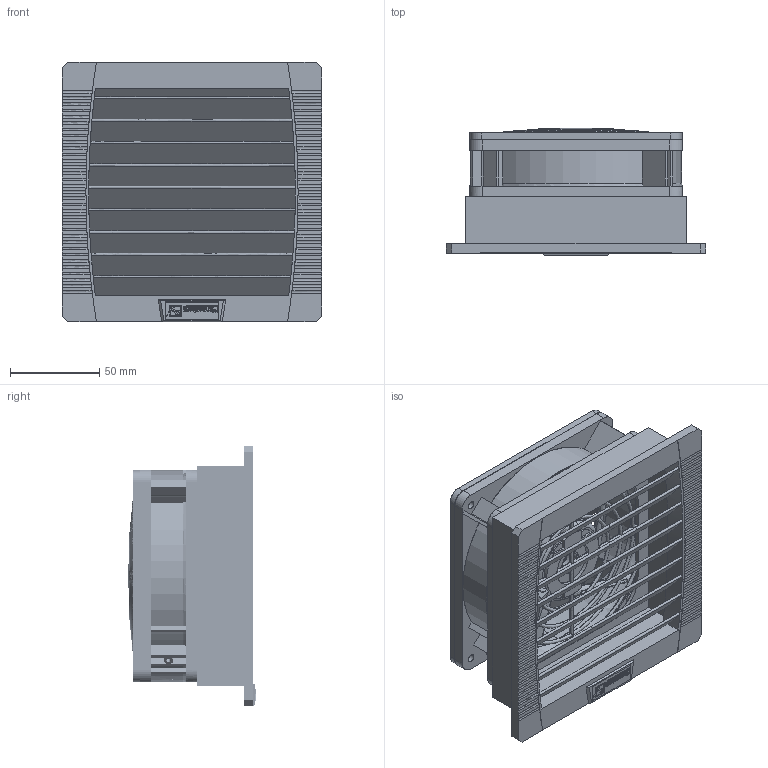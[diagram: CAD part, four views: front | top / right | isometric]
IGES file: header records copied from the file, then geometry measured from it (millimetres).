
Start section: SolidWorks IGES file using analytic representation for surfaces
Global section: file name: L:\3D Volumenmodelle\PF 22000_DC\PF 22000_DC.IGS; native system: SolidWorks 2007; preprocessor: SolidWorks 2007; author: SEichler; date: 071017.141126; units: millimetre
Bounding box: 145 x 71.19 x 145 mm (x, y, z)
Surface area: 229514.6 mm2 (no closed solid volume)
Topology: 0 solids, 0 shells, 2806 faces, 29234 edges, 29185 vertices
Faces by surface type: bspline 2238, revolution 568
